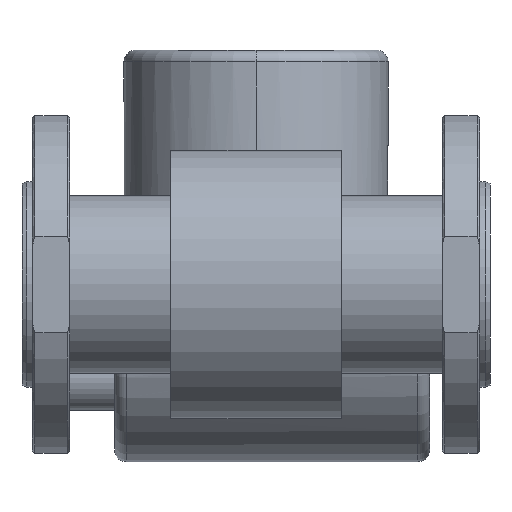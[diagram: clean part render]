
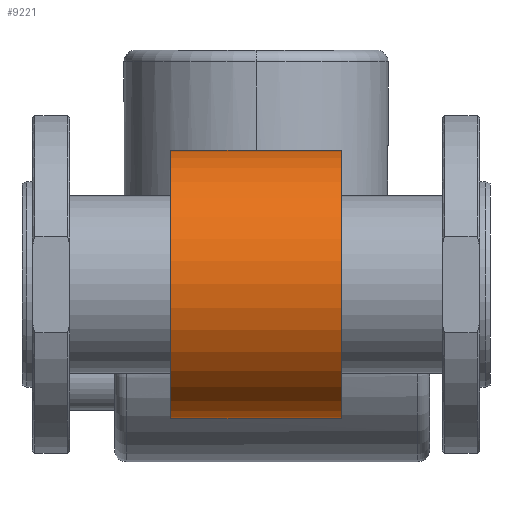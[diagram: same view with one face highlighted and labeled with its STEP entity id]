
A CAD part, front view. The second image highlights one B-rep face of the part: STEP entity #9221.
In plain terms, the highlighted cylindrical face has radius 57.5 mm (diameter 115 mm), a partial arc.
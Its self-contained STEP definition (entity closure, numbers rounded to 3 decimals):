
#316 = VERTEX_POINT ( 'NONE', #4290 ) ;
#483 = CIRCLE ( 'NONE', #8157, 57.5 ) ;
#648 = EDGE_CURVE ( 'NONE', #7671, #316, #6254, .T. ) ;
#882 = VERTEX_POINT ( 'NONE', #1044 ) ;
#899 = AXIS2_PLACEMENT_3D ( 'NONE', #6982, #2336, #6229 ) ;
#1044 = CARTESIAN_POINT ( 'NONE',  ( 36.568, 0., -57.5 ) ) ;
#1113 = EDGE_LOOP ( 'NONE', ( #9610, #3040, #7901, #6668 ) ) ;
#1278 = DIRECTION ( 'NONE',  ( 1., 0., 0. ) ) ;
#1616 = DIRECTION ( 'NONE',  ( 1., 0., 0. ) ) ;
#1862 = VECTOR ( 'NONE', #7118, 1000. ) ;
#2012 = DIRECTION ( 'NONE',  ( 0., 0., -1. ) ) ;
#2091 = VERTEX_POINT ( 'NONE', #6625 ) ;
#2288 = FACE_OUTER_BOUND ( 'NONE', #1113, .T. ) ;
#2336 = DIRECTION ( 'NONE',  ( 1., 0., 0. ) ) ;
#3040 = ORIENTED_EDGE ( 'NONE', *, *, #6632, .T. ) ;
#3269 = CYLINDRICAL_SURFACE ( 'NONE', #899, 57.5 ) ;
#4290 = CARTESIAN_POINT ( 'NONE',  ( 36.568, 0., 57.5 ) ) ;
#4651 = CARTESIAN_POINT ( 'NONE',  ( 116.721, 0., 57.5 ) ) ;
#4860 = CARTESIAN_POINT ( 'NONE',  ( 36.568, 0., 0. ) ) ;
#5219 = CIRCLE ( 'NONE', #9238, 57.5 ) ;
#5597 = LINE ( 'NONE', #7039, #1862 ) ;
#6229 = DIRECTION ( 'NONE',  ( 0., 0., -1. ) ) ;
#6254 = LINE ( 'NONE', #4651, #7902 ) ;
#6443 = EDGE_CURVE ( 'NONE', #2091, #882, #5597, .T. ) ;
#6502 = CARTESIAN_POINT ( 'NONE',  ( -36.5, 0., 57.5 ) ) ;
#6625 = CARTESIAN_POINT ( 'NONE',  ( -36.5, 0., -57.5 ) ) ;
#6632 = EDGE_CURVE ( 'NONE', #7671, #2091, #5219, .T. ) ;
#6668 = ORIENTED_EDGE ( 'NONE', *, *, #7462, .F. ) ;
#6982 = CARTESIAN_POINT ( 'NONE',  ( 116.721, 0., 0. ) ) ;
#7039 = CARTESIAN_POINT ( 'NONE',  ( 116.721, 0., -57.5 ) ) ;
#7118 = DIRECTION ( 'NONE',  ( 1., 0., 0. ) ) ;
#7424 = CARTESIAN_POINT ( 'NONE',  ( -36.5, 0., 0. ) ) ;
#7462 = EDGE_CURVE ( 'NONE', #316, #882, #483, .T. ) ;
#7671 = VERTEX_POINT ( 'NONE', #6502 ) ;
#7901 = ORIENTED_EDGE ( 'NONE', *, *, #6443, .T. ) ;
#7902 = VECTOR ( 'NONE', #1616, 1000. ) ;
#7908 = DIRECTION ( 'NONE',  ( 0., 0., -1. ) ) ;
#8157 = AXIS2_PLACEMENT_3D ( 'NONE', #4860, #9454, #7908 ) ;
#9221 = ADVANCED_FACE ( 'NONE', ( #2288 ), #3269, .T. ) ;
#9238 = AXIS2_PLACEMENT_3D ( 'NONE', #7424, #1278, #2012 ) ;
#9454 = DIRECTION ( 'NONE',  ( 1., 0., 0. ) ) ;
#9610 = ORIENTED_EDGE ( 'NONE', *, *, #648, .F. ) ;
